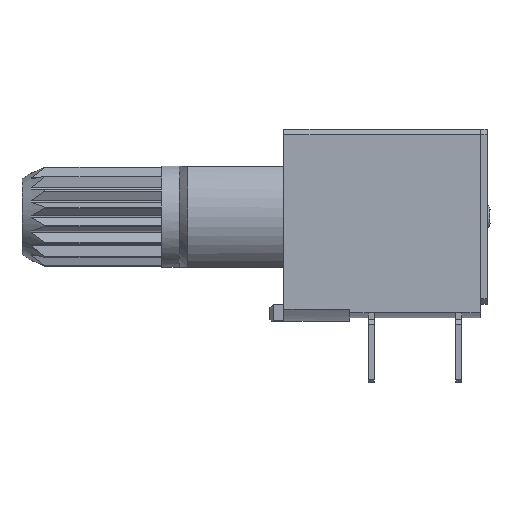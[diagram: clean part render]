
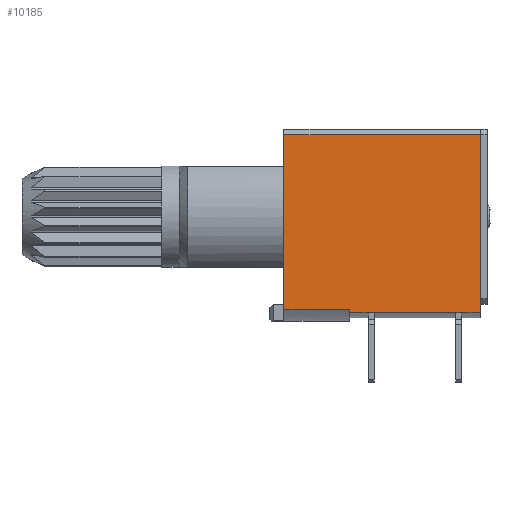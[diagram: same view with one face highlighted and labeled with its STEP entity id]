
A CAD part, left-side view. The second image highlights one B-rep face of the part: STEP entity #10185.
In plain terms, the highlighted planar face has unit normal (-1, 0, 0).
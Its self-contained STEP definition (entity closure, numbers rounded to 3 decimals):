
#2717 = CARTESIAN_POINT ( 'NONE',  ( -5., -5.533, 1. ) ) ;
#2718 = CARTESIAN_POINT ( 'NONE',  ( -5., -5.892, 1. ) ) ;
#2719 = CARTESIAN_POINT ( 'NONE',  ( -5., -6.25, 1. ) ) ;
#2722 = CARTESIAN_POINT ( 'NONE',  ( -5., 1.25, 1. ) ) ;
#2727 = B_SPLINE_CURVE_WITH_KNOTS ( 'NONE', 3,
 ( #2719, #2718, #2717, #2772 ),
 .UNSPECIFIED., .F., .F.,
 ( 4, 4 ),
 ( 0., 1. ),
 .UNSPECIFIED. ) ;
#2728 = CARTESIAN_POINT ( 'NONE',  ( -5., 1.25, 1. ) ) ;
#2729 = CARTESIAN_POINT ( 'NONE',  ( -5., 0.892, 1. ) ) ;
#2730 = CARTESIAN_POINT ( 'NONE',  ( -5., 0.533, 1. ) ) ;
#2731 = CARTESIAN_POINT ( 'NONE',  ( -5., 0.175, 1. ) ) ;
#2733 = B_SPLINE_CURVE_WITH_KNOTS ( 'NONE', 3,
 ( #2731, #2730, #2729, #2728 ),
 .UNSPECIFIED., .F., .F.,
 ( 4, 4 ),
 ( 0., 1. ),
 .UNSPECIFIED. ) ;
#2740 = CARTESIAN_POINT ( 'NONE',  ( -5., 5., 11.2 ) ) ;
#2747 = DIRECTION ( 'NONE',  ( 0., -1., 0. ) ) ;
#2748 = VECTOR ( 'NONE', #2747, 1000. ) ;
#2749 = CARTESIAN_POINT ( 'NONE',  ( -5., -6.25, 11.2 ) ) ;
#2751 = LINE ( 'NONE', #2796, #2775 ) ;
#2754 = LINE ( 'NONE', #2749, #2748 ) ;
#2756 = CARTESIAN_POINT ( 'NONE',  ( -5., -6.25, 11.2 ) ) ;
#2772 = CARTESIAN_POINT ( 'NONE',  ( -5., -5.175, 1. ) ) ;
#2775 = VECTOR ( 'NONE', #2795, 1000. ) ;
#2795 = DIRECTION ( 'NONE',  ( 0., 0., 1. ) ) ;
#2796 = CARTESIAN_POINT ( 'NONE',  ( -5., 1.25, 11.2 ) ) ;
#2843 = FACE_OUTER_BOUND ( 'NONE', #10165, .T. ) ;
#2864 = CARTESIAN_POINT ( 'NONE',  ( -5., -5.175, 1.015 ) ) ;
#2865 = CARTESIAN_POINT ( 'NONE',  ( -5., 0.175, 1.015 ) ) ;
#2869 = CARTESIAN_POINT ( 'NONE',  ( -5., 0.175, 1. ) ) ;
#2870 = CARTESIAN_POINT ( 'NONE',  ( -5., 0.175, 1.005 ) ) ;
#2871 = CARTESIAN_POINT ( 'NONE',  ( -5., 0.175, 1.01 ) ) ;
#2872 = CARTESIAN_POINT ( 'NONE',  ( -5., 0.175, 1.015 ) ) ;
#2875 = B_SPLINE_CURVE_WITH_KNOTS ( 'NONE', 3,
 ( #2906, #2905, #2904, #2903 ),
 .UNSPECIFIED., .F., .F.,
 ( 4, 4 ),
 ( 0., 1. ),
 .UNSPECIFIED. ) ;
#2876 = B_SPLINE_CURVE_WITH_KNOTS ( 'NONE', 3,
 ( #2872, #2871, #2870, #2869 ),
 .UNSPECIFIED., .F., .F.,
 ( 4, 4 ),
 ( 0., 1. ),
 .UNSPECIFIED. ) ;
#2881 = CARTESIAN_POINT ( 'NONE',  ( -5., 0.175, 1.015 ) ) ;
#2882 = CARTESIAN_POINT ( 'NONE',  ( -5., -1.608, 1.015 ) ) ;
#2883 = CARTESIAN_POINT ( 'NONE',  ( -5., -3.392, 1.015 ) ) ;
#2884 = CARTESIAN_POINT ( 'NONE',  ( -5., -5.175, 1.015 ) ) ;
#2886 = B_SPLINE_CURVE_WITH_KNOTS ( 'NONE', 3,
 ( #2884, #2883, #2882, #2881 ),
 .UNSPECIFIED., .F., .F.,
 ( 4, 4 ),
 ( 0., 1. ),
 .UNSPECIFIED. ) ;
#2903 = CARTESIAN_POINT ( 'NONE',  ( -5., -5.175, 1.015 ) ) ;
#2904 = CARTESIAN_POINT ( 'NONE',  ( -5., -5.175, 1.01 ) ) ;
#2905 = CARTESIAN_POINT ( 'NONE',  ( -5., -5.175, 1.005 ) ) ;
#2906 = CARTESIAN_POINT ( 'NONE',  ( -5., -5.175, 1. ) ) ;
#2933 = CARTESIAN_POINT ( 'NONE',  ( -5., -6.25, 1. ) ) ;
#2941 = CARTESIAN_POINT ( 'NONE',  ( -5., -6.25, 11.2 ) ) ;
#2942 = LINE ( 'NONE', #2941, #2971 ) ;
#2970 = DIRECTION ( 'NONE',  ( 0., 0., -1. ) ) ;
#2971 = VECTOR ( 'NONE', #2970, 1000. ) ;
#4284 = CARTESIAN_POINT ( 'NONE',  ( -5., 1.25, 1.213 ) ) ;
#4302 = CARTESIAN_POINT ( 'NONE',  ( -5., 5., 1.213 ) ) ;
#4323 = DIRECTION ( 'NONE',  ( 0., 1., 0. ) ) ;
#4324 = VECTOR ( 'NONE', #4323, 1000. ) ;
#4325 = CARTESIAN_POINT ( 'NONE',  ( -5., -6.25, 1.213 ) ) ;
#4326 = LINE ( 'NONE', #4325, #4324 ) ;
#4523 = CARTESIAN_POINT ( 'NONE',  ( -5., -5.175, 1. ) ) ;
#6009 = CARTESIAN_POINT ( 'NONE',  ( -5., 0.175, 1. ) ) ;
#9732 = ORIENTED_EDGE ( 'NONE', *, *, #10145, .F. ) ;
#9738 = ORIENTED_EDGE ( 'NONE', *, *, #10211, .F. ) ;
#10131 = ORIENTED_EDGE ( 'NONE', *, *, #10190, .F. ) ;
#10145 = EDGE_CURVE ( 'NONE', #11589, #10157, #2733, .T. ) ;
#10148 = VERTEX_POINT ( 'NONE', #2740 ) ;
#10149 = EDGE_CURVE ( 'NONE', #10241, #11095, #2727, .T. ) ;
#10154 = ORIENTED_EDGE ( 'NONE', *, *, #10206, .F. ) ;
#10156 = ORIENTED_EDGE ( 'NONE', *, *, #10162, .F. ) ;
#10157 = VERTEX_POINT ( 'NONE', #2722 ) ;
#10161 = VERTEX_POINT ( 'NONE', #2756 ) ;
#10162 = EDGE_CURVE ( 'NONE', #10148, #10161, #2754, .T. ) ;
#10164 = ORIENTED_EDGE ( 'NONE', *, *, #10217, .F. ) ;
#10165 = EDGE_LOOP ( 'NONE', ( #10154, #10164, #10204, #10243, #10156, #10131, #10205, #10168, #9732, #9738 ) ) ;
#10168 = ORIENTED_EDGE ( 'NONE', *, *, #10173, .F. ) ;
#10173 = EDGE_CURVE ( 'NONE', #10157, #11052, #2751, .T. ) ;
#10185 = ADVANCED_FACE ( 'NONE', ( #2843 ), #10573, .F. ) ;
#10190 = EDGE_CURVE ( 'NONE', #11049, #10148, #10552, .T. ) ;
#10196 = VERTEX_POINT ( 'NONE', #2865 ) ;
#10197 = VERTEX_POINT ( 'NONE', #2864 ) ;
#10204 = ORIENTED_EDGE ( 'NONE', *, *, #10149, .F. ) ;
#10205 = ORIENTED_EDGE ( 'NONE', *, *, #11050, .F. ) ;
#10206 = EDGE_CURVE ( 'NONE', #10197, #10196, #2886, .T. ) ;
#10211 = EDGE_CURVE ( 'NONE', #10196, #11589, #2876, .T. ) ;
#10217 = EDGE_CURVE ( 'NONE', #11095, #10197, #2875, .T. ) ;
#10240 = EDGE_CURVE ( 'NONE', #10161, #10241, #2942, .T. ) ;
#10241 = VERTEX_POINT ( 'NONE', #2933 ) ;
#10243 = ORIENTED_EDGE ( 'NONE', *, *, #10240, .F. ) ;
#10532 = AXIS2_PLACEMENT_3D ( 'NONE', #10572, #10575, #10574 ) ;
#10535 = VECTOR ( 'NONE', #10558, 1000. ) ;
#10552 = LINE ( 'NONE', #10557, #10535 ) ;
#10557 = CARTESIAN_POINT ( 'NONE',  ( -5., 5., 11.2 ) ) ;
#10558 = DIRECTION ( 'NONE',  ( 0., 0., 1. ) ) ;
#10572 = CARTESIAN_POINT ( 'NONE',  ( -5., -6.25, 11.2 ) ) ;
#10573 = PLANE ( 'NONE',  #10532 ) ;
#10574 = DIRECTION ( 'NONE',  ( 0., 0., -1. ) ) ;
#10575 = DIRECTION ( 'NONE',  ( 1., 0., 0. ) ) ;
#11049 = VERTEX_POINT ( 'NONE', #4302 ) ;
#11050 = EDGE_CURVE ( 'NONE', #11052, #11049, #4326, .T. ) ;
#11052 = VERTEX_POINT ( 'NONE', #4284 ) ;
#11095 = VERTEX_POINT ( 'NONE', #4523 ) ;
#11589 = VERTEX_POINT ( 'NONE', #6009 ) ;
